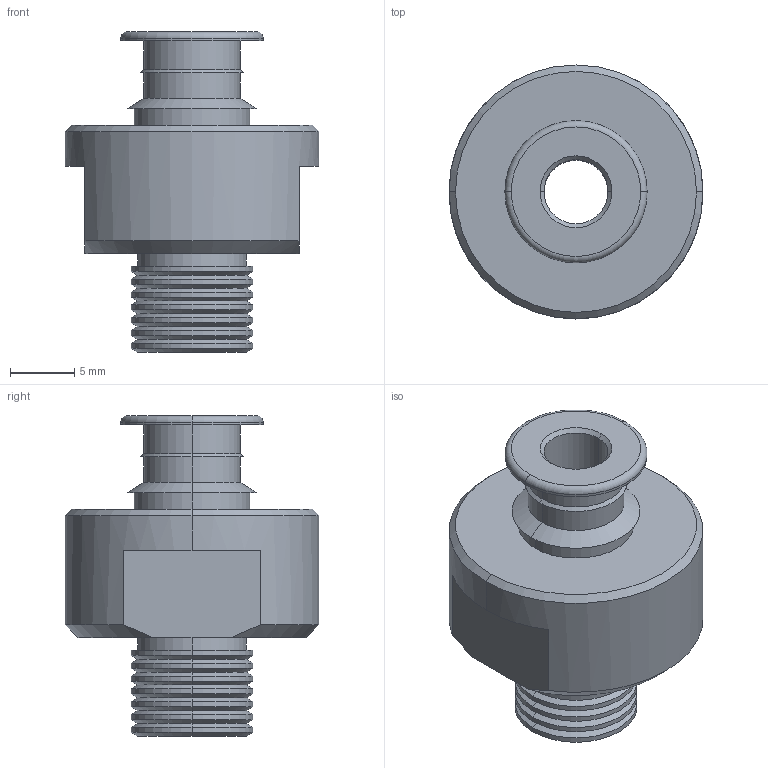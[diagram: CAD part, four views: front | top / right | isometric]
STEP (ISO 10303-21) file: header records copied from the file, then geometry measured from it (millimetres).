
FILE_DESCRIPTION (( 'STEP AP214' ), '1' );
FILE_NAME ('VM23-G18.STEP', '2021-07-17T06:07:41', ( '微软用户' ), ( '微软中国' ), 'SwSTEP 2.0', 'SolidWorks 2018', '' );
FILE_SCHEMA (( 'AUTOMOTIVE_DESIGN' ));
Length unit declared in the file: millimetre
Products named in the file (1): VM23-G18
Bounding box: 19.8 x 19.8 x 25 mm (x, y, z)
Volume: 3306.9 mm3; surface area: 2181.2 mm2
Topology: 1 solids, 1 shells, 80 faces, 166 edges, 94 vertices
Faces by surface type: cone 38, cylinder 28, plane 12, torus 2
Entity records: 2142 total; most frequent: DIRECTION 414, CARTESIAN_POINT 353, ORIENTED_EDGE 332, AXIS2_PLACEMENT_3D 171, EDGE_CURVE 166, VERTEX_POINT 94, CIRCLE 90, EDGE_LOOP 88
